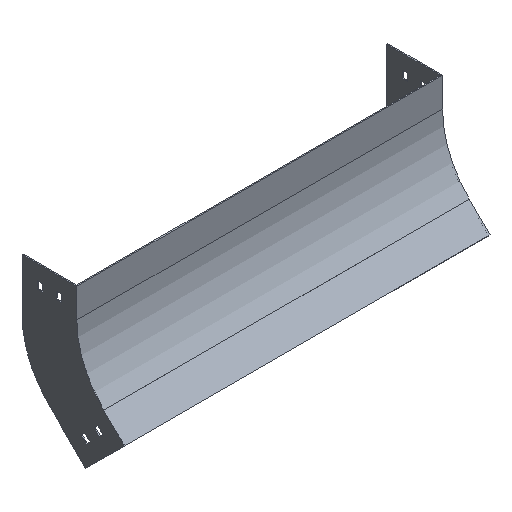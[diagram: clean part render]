
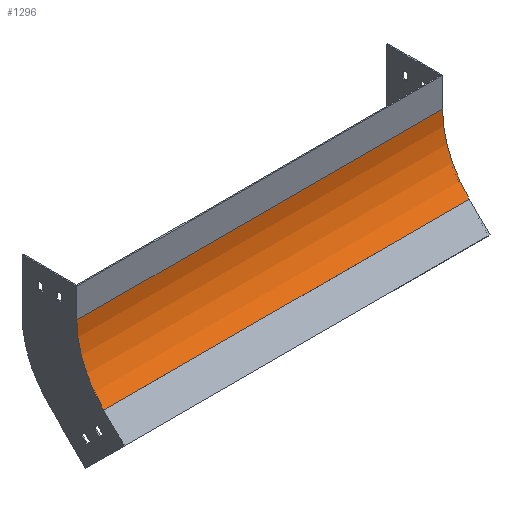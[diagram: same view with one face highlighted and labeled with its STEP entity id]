
A CAD part, isometric view. The second image highlights one B-rep face of the part: STEP entity #1296.
In plain terms, the highlighted cylindrical face has radius 125 mm (diameter 250 mm), a partial arc.
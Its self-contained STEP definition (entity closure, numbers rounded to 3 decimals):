
#10 = CARTESIAN_POINT ( 'NONE',  ( -250., -36.612, -128.388 ) ) ;
#13 = CIRCLE ( 'NONE', #330, 125. ) ;
#21 = FACE_OUTER_BOUND ( 'NONE', #1550, .T. ) ;
#64 = LINE ( 'NONE', #460, #717 ) ;
#90 = CARTESIAN_POINT ( 'NONE',  ( 250., 0., -40. ) ) ;
#160 = CARTESIAN_POINT ( 'NONE',  ( 250., -125., -40. ) ) ;
#253 = VERTEX_POINT ( 'NONE', #10 ) ;
#270 = ORIENTED_EDGE ( 'NONE', *, *, #1625, .T. ) ;
#328 = ORIENTED_EDGE ( 'NONE', *, *, #1595, .T. ) ;
#330 = AXIS2_PLACEMENT_3D ( 'NONE', #1291, #754, #899 ) ;
#331 = VERTEX_POINT ( 'NONE', #710 ) ;
#460 = CARTESIAN_POINT ( 'NONE',  ( 250., -36.612, -128.388 ) ) ;
#464 = EDGE_CURVE ( 'NONE', #331, #253, #64, .T. ) ;
#482 = VERTEX_POINT ( 'NONE', #1506 ) ;
#501 = ORIENTED_EDGE ( 'NONE', *, *, #464, .F. ) ;
#519 = DIRECTION ( 'NONE',  ( 0., 0., 1. ) ) ;
#542 = CYLINDRICAL_SURFACE ( 'NONE', #1181, 125. ) ;
#557 = CARTESIAN_POINT ( 'NONE',  ( -250., 0., -40. ) ) ;
#589 = DIRECTION ( 'NONE',  ( -1., 0., 0. ) ) ;
#652 = DIRECTION ( 'NONE',  ( -1., 0., 0. ) ) ;
#655 = VERTEX_POINT ( 'NONE', #557 ) ;
#671 = ORIENTED_EDGE ( 'NONE', *, *, #803, .F. ) ;
#693 = AXIS2_PLACEMENT_3D ( 'NONE', #780, #1676, #519 ) ;
#710 = CARTESIAN_POINT ( 'NONE',  ( 250., -36.612, -128.388 ) ) ;
#717 = VECTOR ( 'NONE', #589, 1000. ) ;
#754 = DIRECTION ( 'NONE',  ( -1., 0., 0. ) ) ;
#780 = CARTESIAN_POINT ( 'NONE',  ( -250., -125., -40. ) ) ;
#803 = EDGE_CURVE ( 'NONE', #482, #331, #13, .T. ) ;
#826 = CIRCLE ( 'NONE', #693, 125. ) ;
#899 = DIRECTION ( 'NONE',  ( 0., 0., 1. ) ) ;
#981 = LINE ( 'NONE', #90, #1563 ) ;
#1181 = AXIS2_PLACEMENT_3D ( 'NONE', #160, #652, #1420 ) ;
#1291 = CARTESIAN_POINT ( 'NONE',  ( 250., -125., -40. ) ) ;
#1296 = ADVANCED_FACE ( 'NONE', ( #21 ), #542, .F. ) ;
#1420 = DIRECTION ( 'NONE',  ( 0., 0., 1. ) ) ;
#1506 = CARTESIAN_POINT ( 'NONE',  ( 250., 0., -40. ) ) ;
#1550 = EDGE_LOOP ( 'NONE', ( #328, #501, #671, #270 ) ) ;
#1563 = VECTOR ( 'NONE', #1648, 1000. ) ;
#1595 = EDGE_CURVE ( 'NONE', #655, #253, #826, .T. ) ;
#1625 = EDGE_CURVE ( 'NONE', #482, #655, #981, .T. ) ;
#1648 = DIRECTION ( 'NONE',  ( -1., 0., 0. ) ) ;
#1676 = DIRECTION ( 'NONE',  ( -1., 0., 0. ) ) ;
